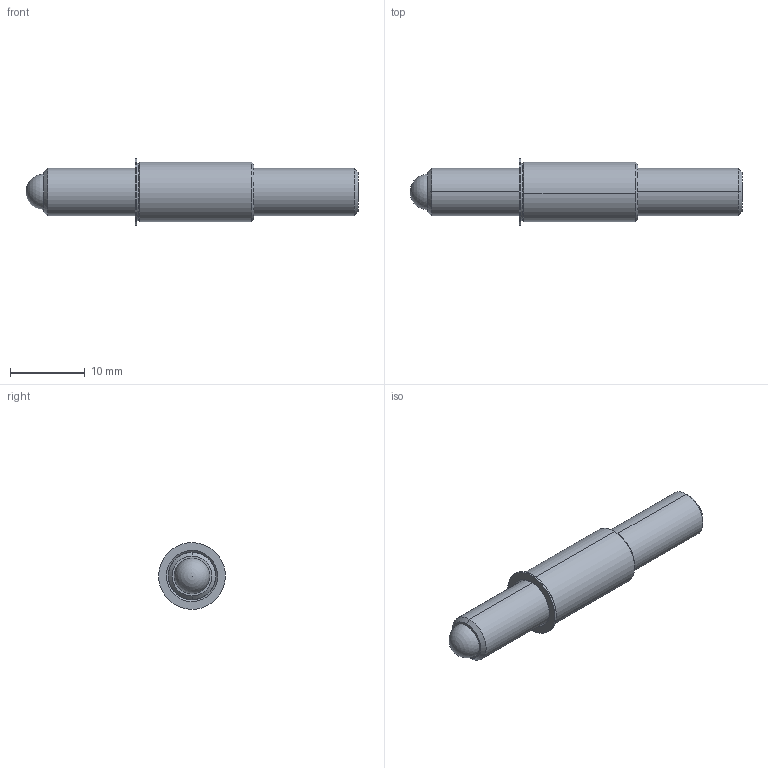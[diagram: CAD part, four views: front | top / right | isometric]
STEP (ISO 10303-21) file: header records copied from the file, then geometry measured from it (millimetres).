
FILE_DESCRIPTION (( 'STEP AP214' ), '1' );
FILE_NAME ('TSB250-80-1750_625-AA.STEP', '2013-03-14T12:54:52', ( 'workpc' ), ( 'Microsoft' ), 'SwSTEP 2.0', 'SolidWorks 2013', '' );
FILE_SCHEMA (( 'AUTOMOTIVE_DESIGN' ));
Length unit declared in the file: inch
Products named in the file (1): TSB250-80-1750_625-AA
Bounding box: 44.45 x 8.93 x 8.93 mm (x, y, z)
Surface area: 1419.4 mm2 (no closed solid volume)
Topology: 0 solids, 3 shells, 33 faces, 77 edges, 49 vertices
Faces by surface type: cone 12, plane 11, cylinder 8, sphere 2
Entity records: 1358 total; most frequent: DIRECTION 174, CARTESIAN_POINT 152, ORIENTED_EDGE 132, EDGE_CURVE 72, AXIS2_PLACEMENT_3D 68, VERTEX_POINT 46, VECTOR 38, LINE 38
